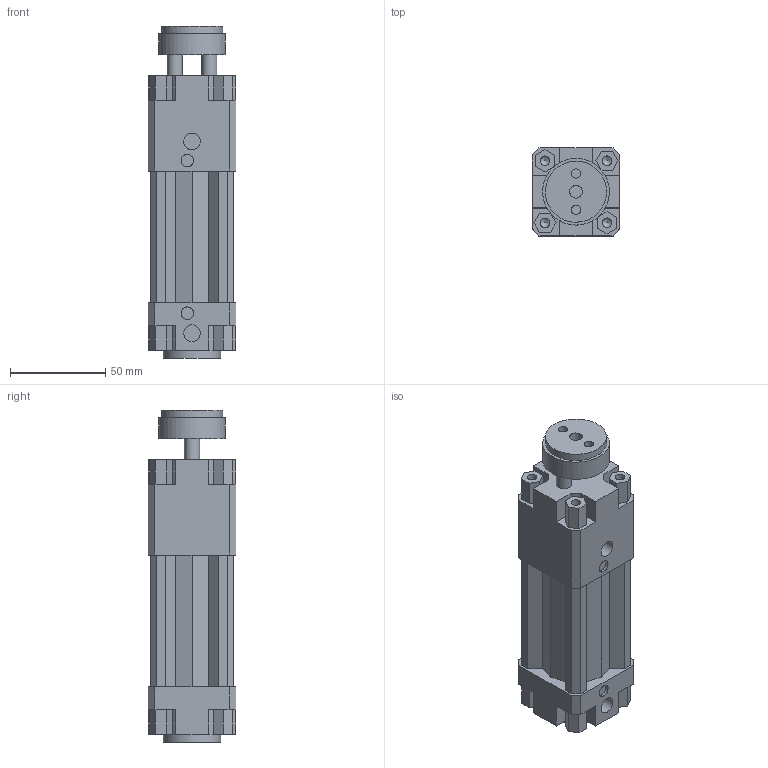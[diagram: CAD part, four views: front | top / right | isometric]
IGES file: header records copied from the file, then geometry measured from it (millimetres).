
Global section: file name: 134#_032_0025_01; native system: Autodesk Inventor 2014; preprocessor: unknown; author: A. Manieri; date: 20161006.164157; units: millimetre
Bounding box: 46 x 46 x 174 mm (x, y, z)
Volume: 240932.7 mm3; surface area: 63480 mm2
Topology: 2 solids, 2 shells, 187 faces, 507 edges, 343 vertices
Faces by surface type: bspline 187
